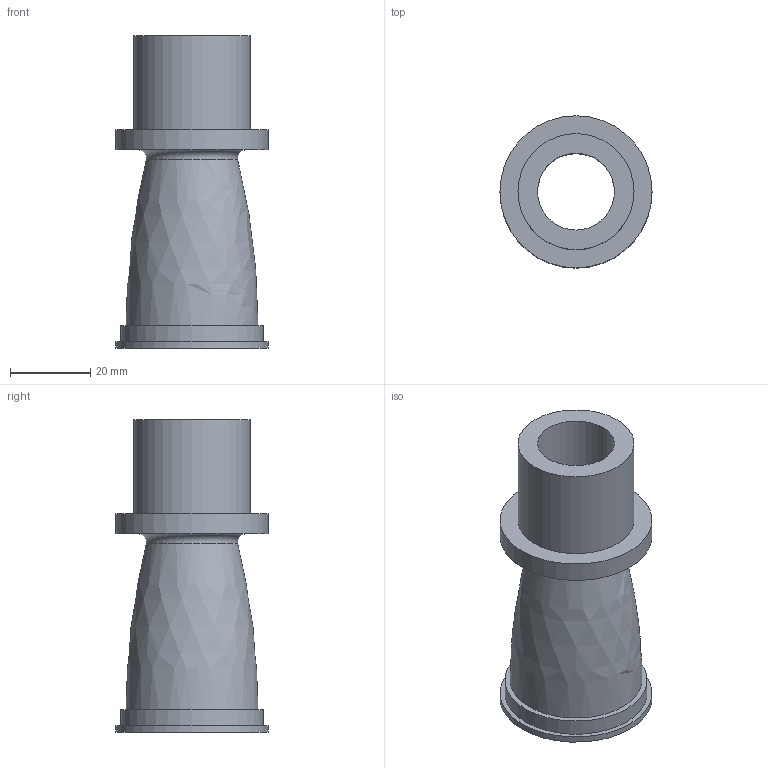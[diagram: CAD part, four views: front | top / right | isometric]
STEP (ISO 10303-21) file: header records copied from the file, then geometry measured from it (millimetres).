
FILE_DESCRIPTION(/* description */ (''),/* implementation_level */ '2;1');
FILE_NAME(/* name */ 'Hauptdse.stp',/* time_stamp */ '2026-03-30T19:04:15+02:00',/* author */ ('rs22sud'),/* organization */ (''),/* preprocessor_version */ 'ST-DEVELOPER v20.1',/* originating_system */ 'Autodesk Inventor 2026',/* authorisation */ '');
FILE_SCHEMA (('AUTOMOTIVE_DESIGN { 1 0 10303 214 3 1 1 }'));
Length unit declared in the file: millimetre
Products named in the file (1): Delta_2_60mm
Bounding box: 38 x 38 x 78 mm (x, y, z)
Volume: 30970.6 mm3; surface area: 14982.7 mm2
Topology: 1 solids, 1 shells, 15 faces, 23 edges, 15 vertices
Faces by surface type: plane 7, cylinder 5, torus 1, bspline 1, cone 1
Full cylindrical faces by diameter (mm): 19.2 x1, 29 x1, 35.6 x1, 38 x2
Entity records: 451 total; most frequent: CARTESIAN_POINT 80, DIRECTION 70, ORIENTED_EDGE 46, AXIS2_PLACEMENT_3D 32, EDGE_CURVE 23, EDGE_LOOP 22, CIRCLE 17, FACE_OUTER_BOUND 15
